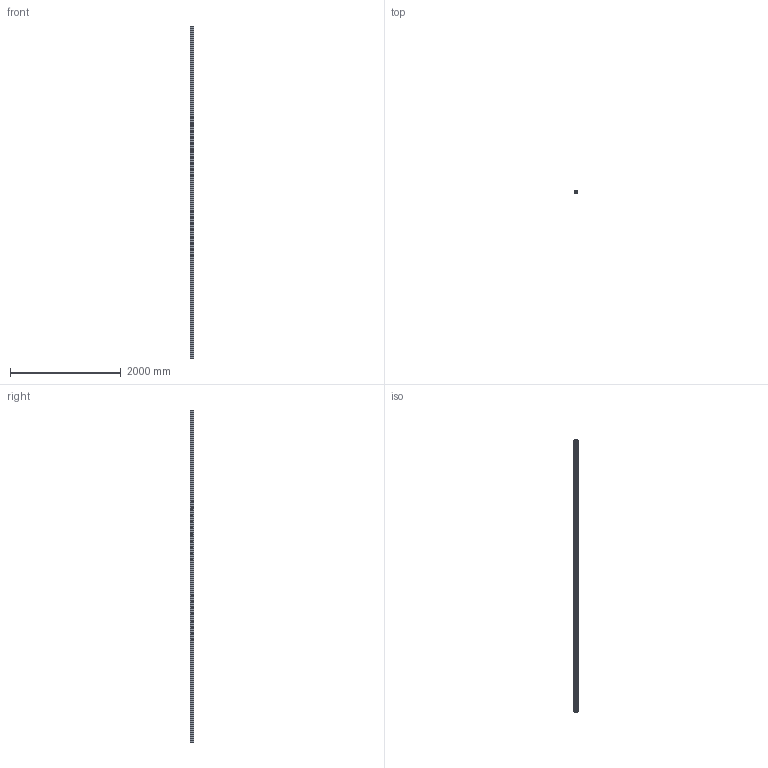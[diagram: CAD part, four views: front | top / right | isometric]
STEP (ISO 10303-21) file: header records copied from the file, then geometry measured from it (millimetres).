
FILE_DESCRIPTION (( 'STEP AP214' ), '1' );
FILE_NAME ('60x60 Slot 10.STEP', '2017-08-07T22:39:23', ( 'Ahmed' ), ( '' ), 'SwSTEP 2.0', 'SolidWorks 2016', '' );
FILE_SCHEMA (( 'AUTOMOTIVE_DESIGN' ));
Length unit declared in the file: millimetre
Products named in the file (2): 60x60 Slot 10
Bounding box: 60 x 60 x 6000 mm (x, y, z)
Volume: 5282346.1 mm3; surface area: 5994548 mm2
Topology: 1 solids, 1 shells, 290 faces, 843 edges, 562 vertices
Faces by surface type: plane 224, cylinder 40, bspline 26
Entity records: 11328 total; most frequent: CARTESIAN_POINT 3675, ORIENTED_EDGE 1686, DIRECTION 1403, EDGE_CURVE 843, VECTOR 711, LINE 711, VERTEX_POINT 562, AXIS2_PLACEMENT_3D 346
